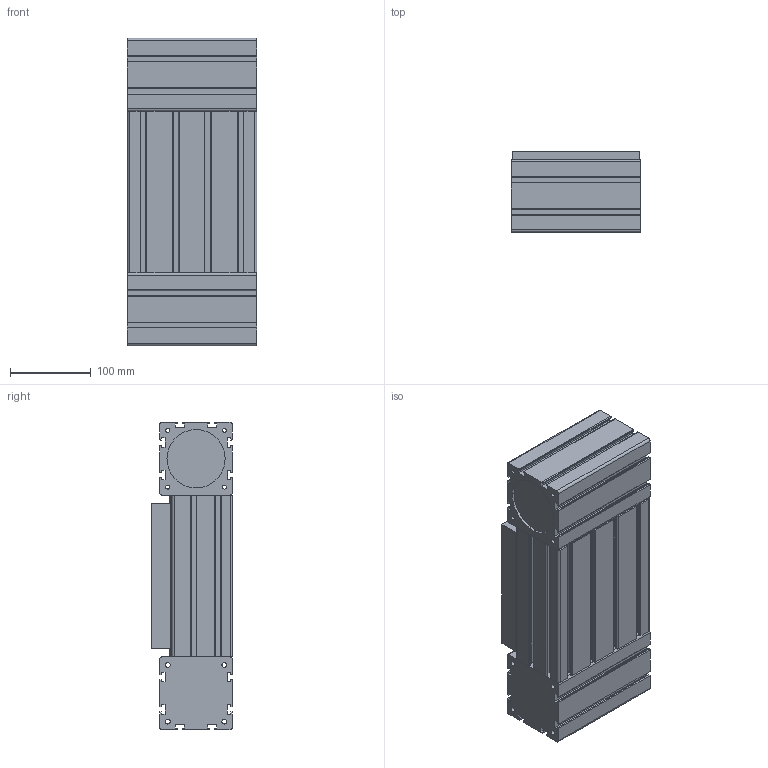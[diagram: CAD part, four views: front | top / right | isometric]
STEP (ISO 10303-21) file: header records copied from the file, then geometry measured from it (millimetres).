
FILE_DESCRIPTION((''),'2;1');
FILE_NAME('C:\Users\disegnatore3\Desktop\alberto_3d\MODELLI PER SITO WEB\ASSI\ML160\ML160PLUSC-22\FORMATO CAD\ML160PLUSC-22.stp','2016-09-12T14:56:43',('disegnatore3'),(''),'Autodesk Inventor 2012','Autodesk Inventor 2012','');
FILE_SCHEMA(('AUTOMOTIVE_DESIGN { 1 0 10303 214 1 1 1 1 }'));
Length unit declared in the file: millimetre
Products named in the file (5): ML160PLUSC-22; PR160PLUS; TM160; TR160; CR160PLUS-22
Assembly tree (4 placements, depth 2):
  ML160PLUSC-22
    PR160PLUS
    TM160
    TR160
    CR160PLUS-22
Bounding box: 160 x 100 x 380 mm (x, y, z)
Volume: 4928285 mm3; surface area: 515677.5 mm2
Topology: 4 solids, 24 shells, 1218 faces, 3469 edges, 2306 vertices
Faces by surface type: plane 840, cylinder 284, cone 68, torus 18, bspline 4, sphere 4
Full cylindrical faces by diameter (mm): 0.5 x2, 2 x2, 2.5 x8, 3 x16, 4.2 x8, 5 x4, 5.2 x2, 6 x20, 6.4 x4, 6.647 x9, 7.3 x4, 7.847 x2, 9.8 x2, 72 x2
Entity records: 39278 total; most frequent: CARTESIAN_POINT 8139, ORIENTED_EDGE 6472, DIRECTION 5898, EDGE_CURVE 3236, VERTEX_POINT 2216, VECTOR 2188, LINE 2188, AXIS2_PLACEMENT_3D 1855
